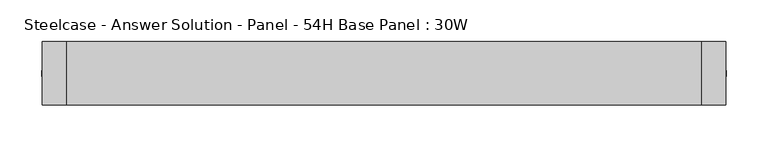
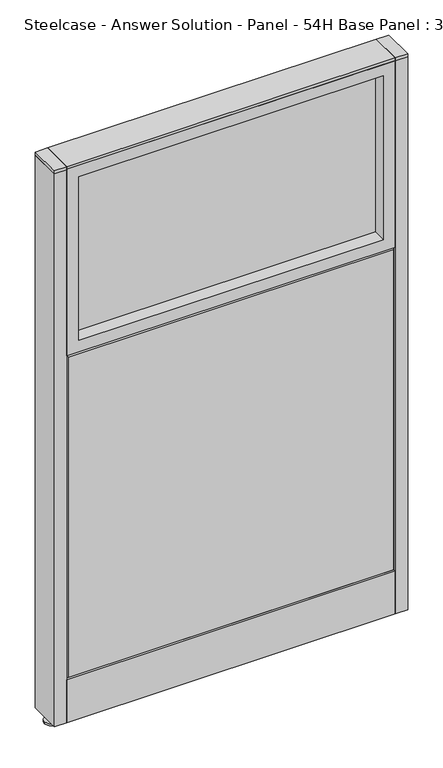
"""IFC4 building model written with IfcOpenShell, lengths in millimetres: furniture geometry, Steelcase - Answer Solution - Panel - 54H Base Panel : 30W."""

from ifc_helpers import new_model, si_unit, point, frame, frame_2d, origin, place, context, project, spatial, polyline, circle_curve, trimmed, segment, composite_curve, outline, extrude, faceted_brep, source, transform, mapped, element, save


def steelcase_answer_solution_panel_54h_base_panel_30w_03402680(model_context):
    return source(origin(), model_context, "Body", "SolidModel", [
        extrude(outline(composite_curve([segment(trimmed(circle_curve(frame_2d((395.224, 0.0320214)), 5.08), [point((400.304, 0.0320214))], [point((390.144, 0.0320214))], False, "CARTESIAN"), True, "CONTINUOUS"), segment(trimmed(circle_curve(frame_2d((395.224, 0.0320214)), 5.08), [point((390.144, 0.0320214))], [point((400.304, 0.0320214))], False, "CARTESIAN"), True, "CONTINUOUS")], self_intersect=False)), frame((0.0, 0.0, 5.0799671), z_axis=(0.0, 0.0, 1.0), x_axis=(1.0, 0.0, 0.0)), (0.0, 0.0, 1.0), 10.414),
        extrude(outline(composite_curve([segment(trimmed(circle_curve(frame_2d((395.224, 0.0320214)), 15.24), [point((410.464, 0.0320214))], [point((379.984, 0.0320214))], False, "CARTESIAN"), True, "CONTINUOUS"), segment(trimmed(circle_curve(frame_2d((395.224, 0.0320214)), 15.24), [point((379.984, 0.0320214))], [point((410.464, 0.0320214))], False, "CARTESIAN"), True, "CONTINUOUS")], self_intersect=False)), frame((0.0, 0.0, -3.29e-05), z_axis=(0.0, 0.0, 1.0), x_axis=(1.0, 0.0, 0.0)), (0.0, 0.0, 1.0), 5.08),
        extrude(outline(polyline([(409.575, 38.1320408), (409.575, -38.0679592), (381.0, -38.0679592), (381.0, 38.1320408), (409.575, 38.1320408)])), frame((0.0, 0.0, 1370.6348), z_axis=(0.0, 0.0, 1.0), x_axis=(1.0, 0.0, 0.0)), (0.0, 0.0, 1.0), 7.3151671),
        extrude(outline(polyline([(409.575, 38.1320408), (409.575, -38.0679592), (381.0, -38.0679592), (381.0, 38.1320408), (409.575, 38.1320408)])), frame((0.0, 0.0, 15.4939671), z_axis=(0.0, 0.0, 1.0), x_axis=(1.0, 0.0, 0.0)), (0.0, 0.0, 1.0), 1355.1408329),
        extrude(outline(composite_curve([segment(trimmed(circle_curve(frame_2d((-395.224, 0.0320214)), 5.08), [point((-400.304, 0.0320214))], [point((-390.144, 0.0320214))], False, "CARTESIAN"), True, "CONTINUOUS"), segment(trimmed(circle_curve(frame_2d((-395.224, 0.0320214)), 5.08), [point((-390.144, 0.0320214))], [point((-400.304, 0.0320214))], False, "CARTESIAN"), True, "CONTINUOUS")], self_intersect=False)), frame((0.0, 0.0, 5.0799671), z_axis=(0.0, 0.0, 1.0), x_axis=(1.0, 0.0, 0.0)), (0.0, 0.0, 1.0), 10.414),
        extrude(outline(composite_curve([segment(trimmed(circle_curve(frame_2d((-395.224, 0.0320214)), 15.24), [point((-410.464, 0.0320214))], [point((-379.984, 0.0320214))], False, "CARTESIAN"), True, "CONTINUOUS"), segment(trimmed(circle_curve(frame_2d((-395.224, 0.0320214)), 15.24), [point((-379.984, 0.0320214))], [point((-410.464, 0.0320214))], False, "CARTESIAN"), True, "CONTINUOUS")], self_intersect=False)), frame((0.0, 0.0, -3.29e-05), z_axis=(0.0, 0.0, 1.0), x_axis=(1.0, 0.0, 0.0)), (0.0, 0.0, 1.0), 5.08),
        extrude(outline(polyline([(-409.575, 38.1320408), (-381.0, 38.1320408), (-381.0, -38.0679592), (-409.575, -38.0679592), (-409.575, 38.1320408)])), frame((0.0, 0.0, 1370.6348), z_axis=(0.0, 0.0, 1.0), x_axis=(1.0, 0.0, 0.0)), (0.0, 0.0, 1.0), 7.3151671),
        extrude(outline(polyline([(-409.575, 38.1320408), (-381.0, 38.1320408), (-381.0, -38.0679592), (-409.575, -38.0679592), (-409.575, 38.1320408)])), frame((0.0, 0.0, 15.4939671), z_axis=(0.0, 0.0, 1.0), x_axis=(1.0, 0.0, 0.0)), (0.0, 0.0, 1.0), 1355.1408329),
        extrude(outline(polyline([(-353.06, 6.346049), (353.06, 6.346049), (353.06, -6.353951), (-353.06, -6.353951), (-353.06, 6.346049)])), frame((0.0, 0.0, 942.34), z_axis=(0.0, 0.0, 1.0), x_axis=(1.0, 0.0, 0.0)), (0.0, 0.0, 1.0), 401.32),
        extrude(outline(polyline([(1371.6, -381.0), (914.4, -381.0), (914.4, 381.0), (1371.6, 381.0), (1371.6, -381.0)]), holes=[polyline([(1343.66, -353.06), (1343.66, 353.06), (942.34, 353.06), (942.34, -353.06), (1343.66, -353.06)])]), frame((0.0, -38.103951, 0.0), z_axis=(0.0, 1.0, 0.0), x_axis=(0.0, 0.0, 1.0)), (0.0, 0.0, 1.0), 76.2),
        faceted_brep([(-376.174, 38.1635011, 909.574), (376.174, 38.1635011, 909.574), (376.174, 38.1635011, 125.476), (-376.174, 38.1635011, 125.476), (-381.0, 33.3375011, 914.4), (-381.0, 33.3375011, 120.65), (381.0, 33.3375011, 120.65), (381.0, 33.3375011, 914.4)], [[[0, 1, 2, 3]], [[4, 5, 6, 7]], [[4, 7, 1, 0]], [[7, 6, 2, 1]], [[6, 5, 3, 2]], [[5, 4, 0, 3]]]),
        extrude(outline(polyline([(353.06, -6.346049), (-353.06, -6.346049), (-353.06, 6.353951), (353.06, 6.353951), (353.06, -6.346049)])), frame((0.0, 0.0, 942.34), z_axis=(0.0, 0.0, 1.0), x_axis=(1.0, 0.0, 0.0)), (0.0, 0.0, 1.0), 401.32),
        extrude(outline(polyline([(1371.6, 381.0), (1371.6, -381.0), (914.4, -381.0), (914.4, 381.0), (1371.6, 381.0)]), holes=[polyline([(1343.66, 353.06), (942.34, 353.06), (942.34, -353.06), (1343.66, -353.06), (1343.66, 353.06)])]), frame((0.0, -38.096049, 0.0), z_axis=(0.0, 1.0, 0.0), x_axis=(0.0, 0.0, 1.0)), (0.0, 0.0, 1.0), 76.2),
        faceted_brep([(376.174, -38.1635011, 909.574), (-376.174, -38.1635011, 909.574), (-376.174, -38.1635011, 125.476), (376.174, -38.1635011, 125.476), (381.0, -33.3375011, 914.4), (381.0, -33.3375011, 120.65), (-381.0, -33.3375011, 120.65), (-381.0, -33.3375011, 914.4)], [[[0, 1, 2, 3]], [[4, 5, 6, 7]], [[4, 7, 1, 0]], [[7, 6, 2, 1]], [[6, 5, 3, 2]], [[5, 4, 0, 3]]]),
        extrude(outline(polyline([(381.0, 38.1000194), (381.0, -38.1000194), (-381.0, -38.1000194), (-381.0, 38.1000194), (381.0, 38.1000194)])), frame((0.0, 0.0, 1371.6), z_axis=(0.0, 0.0, 1.0), x_axis=(1.0, 0.0, 0.0)), (0.0, 0.0, 1.0), 6.35),
        extrude(outline(polyline([(25.4000011, 119.8575157), (25.4000011, 120.65), (38.1000194, 120.65), (38.1000194, 15.494), (37.3075215, 15.494), (37.3075215, 119.8575157), (25.4000011, 119.8575157)])), frame((-381.0, 0.0, 0.0), z_axis=(1.0, 0.0, 0.0), x_axis=(0.0, 1.0, 0.0)), (0.0, 0.0, 1.0), 762.0),
        extrude(outline(polyline([(-25.4000011, 119.8575157), (-37.3075215, 119.8575157), (-37.3075215, 15.494), (-38.1000194, 15.494), (-38.1000194, 120.65), (-25.4000011, 120.65), (-25.4000011, 119.8575157)])), frame((-381.0, 0.0, 0.0), z_axis=(1.0, 0.0, 0.0), x_axis=(0.0, 1.0, 0.0)), (0.0, 0.0, 1.0), 762.0),
    ])


if __name__ == "__main__":
    model = new_model("IFC4")
    model_context = context("Model", 3, world=origin())
    ifc_project = project(units=[si_unit("LENGTHUNIT", "METRE", prefix="MILLI")], contexts=[model_context])
    site = spatial("IfcSite", under=ifc_project)
    building = spatial("IfcBuilding", under=site)
    placement = place(None, origin())
    steelcase_answer_solution_panel_54h_base_panel_30w_shape = steelcase_answer_solution_panel_54h_base_panel_30w_03402680(model_context)
    element("IfcFurniture", 1, ObjectType="Steelcase - Answer Solution - Panel - 54H Base Panel : 30W", at=placement, inside=building, context=model_context, shape_type="MappedRepresentation", body=[
        mapped(steelcase_answer_solution_panel_54h_base_panel_30w_shape, transform((0.0, 0.0, 0.0), x_axis=(1.0, 0.0, 0.0), y_axis=(0.0, 1.0, 0.0), z_axis=(0.0, 0.0, 1.0))),
    ])
    save(model, "model.ifc")
